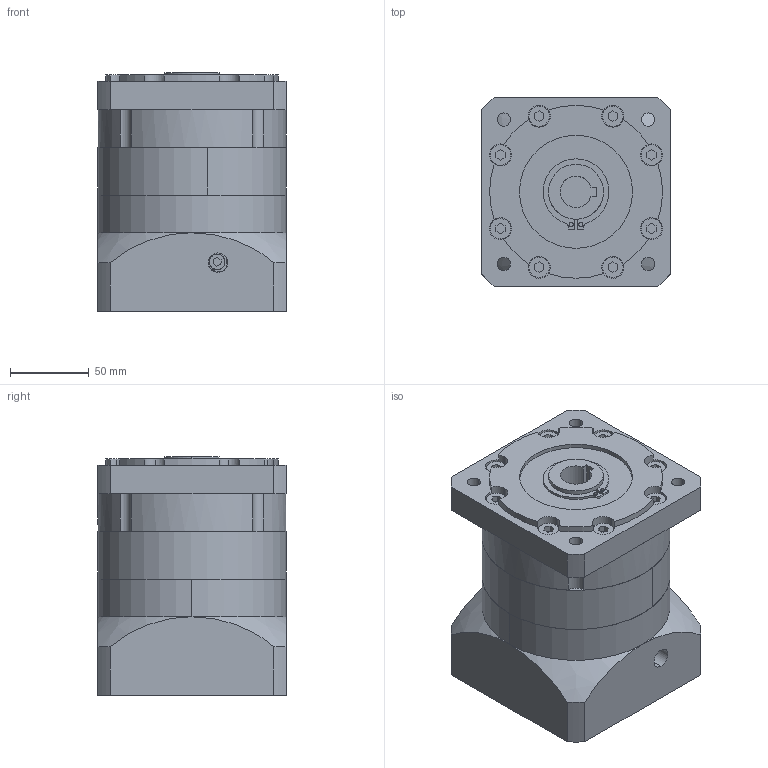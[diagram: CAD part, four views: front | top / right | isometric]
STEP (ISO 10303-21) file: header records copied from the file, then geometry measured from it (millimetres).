
FILE_DESCRIPTION (( 'STEP AP203' ), '1' );
FILE_NAME ('PBF120-L1-19-95-130.STEP', '2026-10-16T07:31:54', ( 'Windows User' ), ( 'P R C' ), 'SwSTEP 2.0', 'SolidWorks 2016', '' );
FILE_SCHEMA (( 'CONFIG_CONTROL_DESIGN' ));
Length unit declared in the file: millimetre
Products named in the file (7): PBF120 狟屳唳-19; 粣創-6007 40x68x15; PBF120-L1-19-95-130; 囀鞠褒蹟佪 M6x20; PBF120 蟀諉啣-95-M8-130-LR57; PBF120 κｳﾝﾈｦ-ﾓﾅｻｯ_ﾒｻｼｶﾄﾚｳﾝﾈｦ; PBF120 奻屳唳-謂怀堤-20-B6
Assembly tree (6 placements, depth 2):
  PBF120-L1-19-95-130
    囀鞠褒蹟佪 M6x20
    PBF120 蟀諉啣-95-M8-130-LR57
    PBF120 κｳﾝﾈｦ-ﾓﾅｻｯ_ﾒｻｼｶﾄﾚｳﾝﾈｦ
    PBF120 奻屳唳-謂怀堤-20-B6
    PBF120 狟屳唳-19
    粣創-6007 40x68x15
Bounding box: 120 x 120 x 152 mm (x, y, z)
Volume: 1652897.9 mm3; surface area: 231683.6 mm2
Topology: 6 solids, 14 shells, 1114 faces, 2992 edges, 1977 vertices
Faces by surface type: plane 608, bspline 300, cylinder 196, cone 10
Entity records: 47052 total; most frequent: CARTESIAN_POINT 20106, ORIENTED_EDGE 5968, DIRECTION 4561, EDGE_CURVE 2984, VERTEX_POINT 1977, VECTOR 1671, LINE 1671, AXIS2_PLACEMENT_3D 1445
